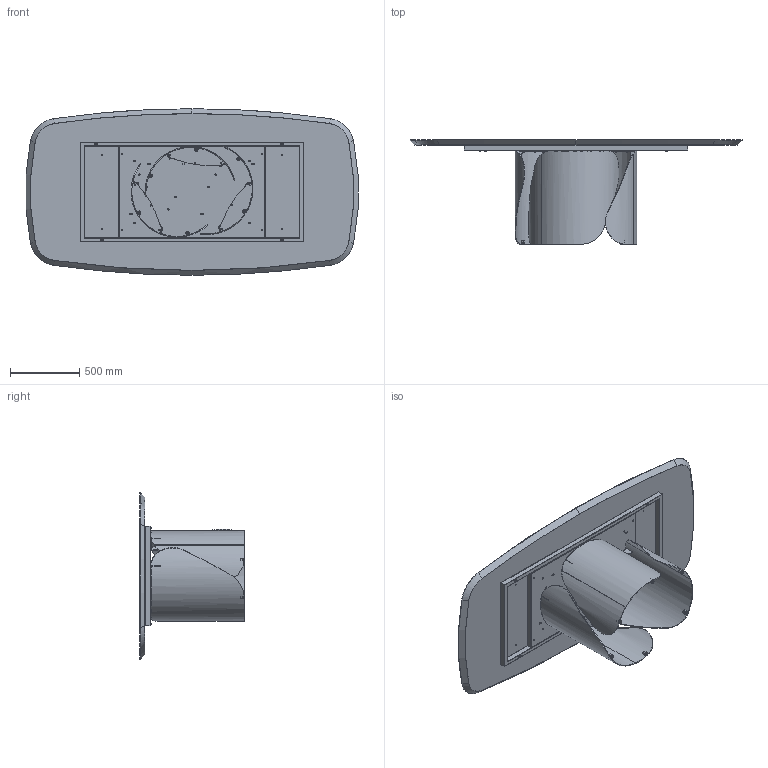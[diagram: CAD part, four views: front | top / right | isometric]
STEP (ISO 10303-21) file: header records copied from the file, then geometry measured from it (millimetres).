
FILE_DESCRIPTION (( 'STEP AP203' ), '1' );
FILE_NAME ('ON43W.STEP', '2024-08-06T13:55:41', ( '' ), ( '' ), 'SwSTEP 2.0', 'SolidWorks 2022', '' );
FILE_SCHEMA (( 'CONFIG_CONTROL_DESIGN' ));
Length unit declared in the file: millimetre
Products named in the file (15): W4XCMXX-00-Piani Sagomati legno_2400 x 1200; OND000000_03-00-LAMIERA CURVATA PRINCIPALE_OND00000X-00-ONDA BASE GREZZA PROTOTIPO; TTAV0601_01-00-STRUTTURA X TAVOLI PLAI ONDA NOA 240; M8xXXmm_M8x20mm; M8xXXmm_M8x55mm; ON43W; COLLO BASE ONDA SINGOLA CON FERRAMENTA; OND000000_02-00-CILINDRO DI FISSAGGIO Ø25X17 M8; rondella M8_8X24; OND000000_01-00-PIASTRA SUPERIORE BASE ONDA; TTAV0601-00-TELAIO X TAVOLI PLAI ONDA NOA 240cm_TTAV06; TTAV0601_02-00-VASSOIO TAVOLI PLAI ONDA NOA 240; PIEDINO PER ONDA; OND000000-03-ONDA BASE GREZZA; COLLO TELAIO UNIVERSALE TTAV0601 CON FERRAMENTA_FERRAMENTA MTG TOP LEGNO-MARMO-KING
Assembly tree (47 placements, depth 4):
  ON43W
    COLLO TELAIO UNIVERSALE TTAV0601 CON FERRAMENTA_FERRAMENTA MTG TOP LEGNO-MARMO-KING
      TTAV0601-00-TELAIO X TAVOLI PLAI ONDA NOA 240cm_TTAV06
        TTAV0601_02-00-VASSOIO TAVOLI PLAI ONDA NOA 240
        TTAV0601_01-00-STRUTTURA X TAVOLI PLAI ONDA NOA 240
      rondella M8_8X24  x4
      M8xXXmm_M8x55mm  x4
    COLLO BASE ONDA SINGOLA CON FERRAMENTA  x3
      OND000000-03-ONDA BASE GREZZA
        OND000000_03-00-LAMIERA CURVATA PRINCIPALE_OND00000X-00-ONDA BASE GREZZA PROTOTIPO
        OND000000_01-00-PIASTRA SUPERIORE BASE ONDA
        OND000000_02-00-CILINDRO DI FISSAGGIO Ø25X17 M8  x2
      PIEDINO PER ONDA
    rondella M8_8X24  x12
    M8xXXmm_M8x20mm  x12
    W4XCMXX-00-Piani Sagomati legno_2400 x 1200
Bounding box: 2391.9 x 754 x 1200 mm (x, y, z)
Volume: 109852188.4 mm3; surface area: 11716885.2 mm2
Topology: 59 solids, 59 shells, 1746 faces, 3979 edges, 2362 vertices
Faces by surface type: plane 618, cylinder 540, cone 295, torus 225, bspline 60, sphere 8
Entity records: 24086 total; most frequent: CARTESIAN_POINT 5327, DIRECTION 3575, ORIENTED_EDGE 3238, EDGE_CURVE 1619, AXIS2_PLACEMENT_3D 1362, VERTEX_POINT 986, VECTOR 851, LINE 851
